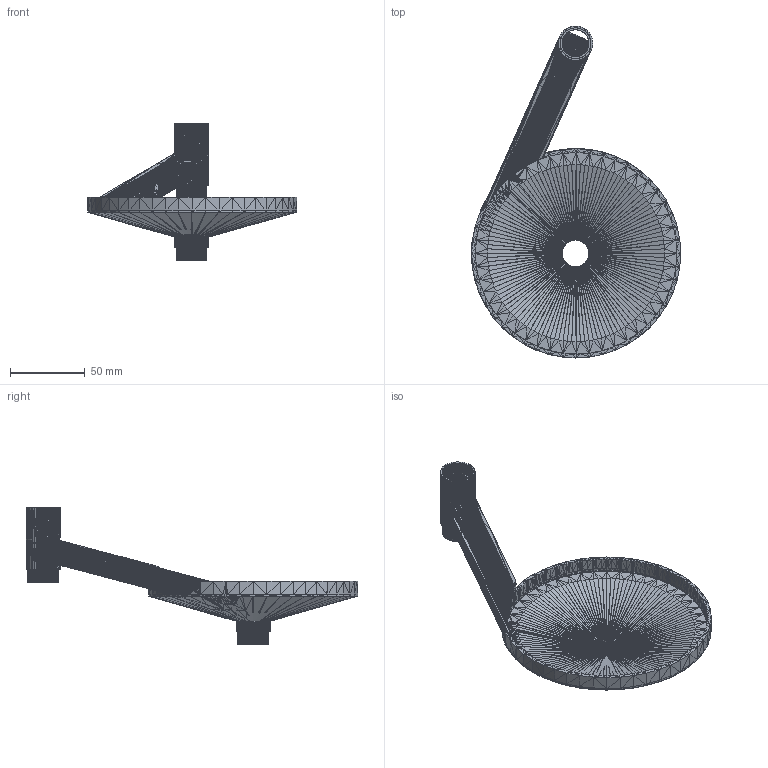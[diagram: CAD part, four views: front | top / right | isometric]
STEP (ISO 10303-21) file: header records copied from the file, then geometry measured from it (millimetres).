
FILE_DESCRIPTION((''),'2;1');
FILE_NAME('MR funnel with side', '2026-10-19T03:58:22', (''), (''), 'ImageToStl.com STEP Converter','', '');
FILE_SCHEMA(('AUTOMOTIVE_DESIGN_CC2'));
Length unit declared in the file: millimetre
Products named in the file (1): product0
Bounding box: 140.25 x 222.28 x 91.5 mm (x, y, z)
Topology: 0 solids, 10726 shells, 10726 faces, 32134 edges, 5342 vertices
Faces by surface type: plane 10726
Entity records: 246683 total; most frequent: DIRECTION 53632, ORIENTED_EDGE 32178, EDGE_CURVE 32178, LINE 32178, VECTOR 32178, AXIS2_PLACEMENT_3D 10727, FACE_SURFACE 10726, PLANE 10726
